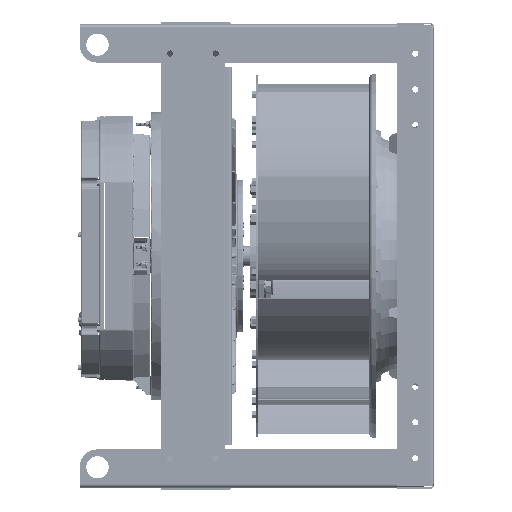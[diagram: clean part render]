
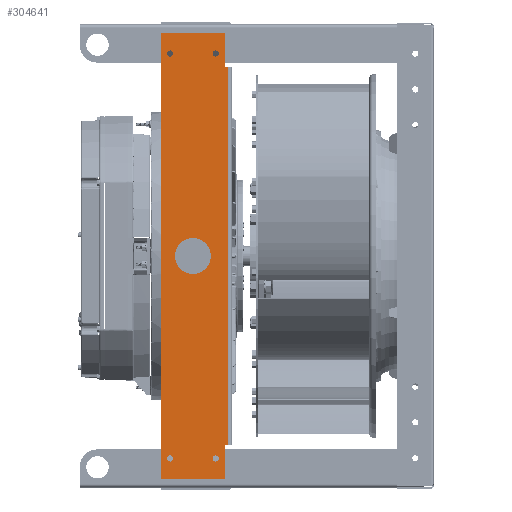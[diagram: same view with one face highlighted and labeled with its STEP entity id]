
A CAD part, front view. The second image highlights one B-rep face of the part: STEP entity #304641.
In plain terms, the highlighted planar face has unit normal (0, -1, 0) as drawn and (0, 0, 1) by its records, which use the part's own axes.
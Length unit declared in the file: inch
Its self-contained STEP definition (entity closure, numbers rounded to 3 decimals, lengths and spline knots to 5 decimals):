
#167 = CIRCLE ( 'NONE', #56768, 1. ) ;
#3002 = DIRECTION ( 'NONE',  ( 1., 0., 0. ) ) ;
#3471 = CARTESIAN_POINT ( 'NONE',  ( -11.305, 1.27, 0.135 ) ) ;
#8842 = VERTEX_POINT ( 'NONE', #313067 ) ;
#12262 = DIRECTION ( 'NONE',  ( -1., 0., 0. ) ) ;
#12968 = EDGE_LOOP ( 'NONE', ( #268033 ) ) ;
#13872 = EDGE_CURVE ( 'NONE', #38514, #38514, #216441, .T. ) ;
#19350 = DIRECTION ( 'NONE',  ( -1., 0., 0. ) ) ;
#20296 = CARTESIAN_POINT ( 'NONE',  ( -12.465, -1.77, 0.135 ) ) ;
#21132 = EDGE_CURVE ( 'NONE', #98328, #8842, #247827, .T. ) ;
#24757 = LINE ( 'NONE', #221554, #207800 ) ;
#27243 = VERTEX_POINT ( 'NONE', #282128 ) ;
#30086 = CARTESIAN_POINT ( 'NONE',  ( -11.305, -1.27, 0.135 ) ) ;
#33373 = FACE_BOUND ( 'NONE', #302127, .T. ) ;
#38514 = VERTEX_POINT ( 'NONE', #280532 ) ;
#39239 = EDGE_CURVE ( 'NONE', #27243, #98328, #154314, .T. ) ;
#46737 = CARTESIAN_POINT ( 'NONE',  ( -12.465, 1.77, 0.135 ) ) ;
#56768 = AXIS2_PLACEMENT_3D ( 'NONE', #149804, #106127, #3002 ) ;
#59159 = FACE_OUTER_BOUND ( 'NONE', #267252, .T. ) ;
#64891 = EDGE_CURVE ( 'NONE', #104110, #27243, #315488, .T. ) ;
#68324 = CARTESIAN_POINT ( 'NONE',  ( 11.305, 1.27, 0.135 ) ) ;
#75106 = CARTESIAN_POINT ( 'NONE',  ( 11.133, 1.27, 0.135 ) ) ;
#76072 = DIRECTION ( 'NONE',  ( 1., 0., 0. ) ) ;
#79249 = DIRECTION ( 'NONE',  ( 0., 0., 1. ) ) ;
#79831 = VERTEX_POINT ( 'NONE', #75106 ) ;
#79865 = ORIENTED_EDGE ( 'NONE', *, *, #177143, .F. ) ;
#81525 = ORIENTED_EDGE ( 'NONE', *, *, #187393, .T. ) ;
#81743 = FACE_BOUND ( 'NONE', #12968, .T. ) ;
#82169 = LINE ( 'NONE', #180607, #277283 ) ;
#85366 = DIRECTION ( 'NONE',  ( 0., -1., 0. ) ) ;
#85444 = CARTESIAN_POINT ( 'NONE',  ( -10.555, 1.9775, 0.135 ) ) ;
#89192 = EDGE_CURVE ( 'NONE', #132917, #132917, #167, .T. ) ;
#89737 = DIRECTION ( 'NONE',  ( -1., 0., 0. ) ) ;
#94010 = ORIENTED_EDGE ( 'NONE', *, *, #39239, .T. ) ;
#96217 = ORIENTED_EDGE ( 'NONE', *, *, #140553, .T. ) ;
#96525 = VECTOR ( 'NONE', #152861, 39.37008 ) ;
#98030 = ORIENTED_EDGE ( 'NONE', *, *, #64891, .T. ) ;
#98328 = VERTEX_POINT ( 'NONE', #141524 ) ;
#98891 = DIRECTION ( 'NONE',  ( 0., 0., 1. ) ) ;
#99897 = EDGE_CURVE ( 'NONE', #229732, #229732, #124078, .T. ) ;
#101294 = CARTESIAN_POINT ( 'NONE',  ( 10.555, 1.9775, 0.135 ) ) ;
#104110 = VERTEX_POINT ( 'NONE', #161150 ) ;
#104998 = VECTOR ( 'NONE', #239690, 39.37008 ) ;
#106127 = DIRECTION ( 'NONE',  ( 0., 0., 1. ) ) ;
#106227 = ORIENTED_EDGE ( 'NONE', *, *, #252777, .T. ) ;
#108049 = LINE ( 'NONE', #85444, #226722 ) ;
#119893 = DIRECTION ( 'NONE',  ( -1., 0., 0. ) ) ;
#121497 = DIRECTION ( 'NONE',  ( -1., 0., 0. ) ) ;
#123802 = VERTEX_POINT ( 'NONE', #145999 ) ;
#124078 = CIRCLE ( 'NONE', #304353, 0.172 ) ;
#128572 = CARTESIAN_POINT ( 'NONE',  ( -11.133, 1.27, 0.135 ) ) ;
#129872 = EDGE_LOOP ( 'NONE', ( #141221 ) ) ;
#132917 = VERTEX_POINT ( 'NONE', #252363 ) ;
#134760 = VERTEX_POINT ( 'NONE', #183597 ) ;
#139044 = AXIS2_PLACEMENT_3D ( 'NONE', #169750, #197111, #76072 ) ;
#140553 = EDGE_CURVE ( 'NONE', #134760, #263165, #219164, .T. ) ;
#141221 = ORIENTED_EDGE ( 'NONE', *, *, #13872, .F. ) ;
#141293 = CARTESIAN_POINT ( 'NONE',  ( 0., 0., 0.135 ) ) ;
#141524 = CARTESIAN_POINT ( 'NONE',  ( 12.465, 1.77, 0.135 ) ) ;
#144550 = VECTOR ( 'NONE', #119893, 39.37008 ) ;
#145999 = CARTESIAN_POINT ( 'NONE',  ( -12.465, 1.77, 0.135 ) ) ;
#149804 = CARTESIAN_POINT ( 'NONE',  ( 0., 0., 0.135 ) ) ;
#152861 = DIRECTION ( 'NONE',  ( -1., 0., 0. ) ) ;
#154314 = LINE ( 'NONE', #205879, #247579 ) ;
#157824 = CIRCLE ( 'NONE', #204066, 0.172 ) ;
#158155 = ORIENTED_EDGE ( 'NONE', *, *, #21132, .T. ) ;
#161150 = CARTESIAN_POINT ( 'NONE',  ( -12.465, -1.77, 0.135 ) ) ;
#168134 = EDGE_CURVE ( 'NONE', #246476, #246476, #157824, .T. ) ;
#168196 = VECTOR ( 'NONE', #19350, 39.37008 ) ;
#168391 = DIRECTION ( 'NONE',  ( 0., -1., 0. ) ) ;
#169750 = CARTESIAN_POINT ( 'NONE',  ( 11.305, -1.27, 0.135 ) ) ;
#176105 = ORIENTED_EDGE ( 'NONE', *, *, #198495, .T. ) ;
#177143 = EDGE_CURVE ( 'NONE', #134760, #8842, #82169, .T. ) ;
#180607 = CARTESIAN_POINT ( 'NONE',  ( 10.555, 1.9775, 0.135 ) ) ;
#183597 = CARTESIAN_POINT ( 'NONE',  ( 10.555, 1.9775, 0.135 ) ) ;
#186524 = ORIENTED_EDGE ( 'NONE', *, *, #207926, .F. ) ;
#187393 = EDGE_CURVE ( 'NONE', #123802, #104110, #24757, .T. ) ;
#197111 = DIRECTION ( 'NONE',  ( 0., 0., 1. ) ) ;
#198495 = EDGE_CURVE ( 'NONE', #221073, #123802, #226819, .T. ) ;
#204066 = AXIS2_PLACEMENT_3D ( 'NONE', #3471, #79249, #301807 ) ;
#205830 = CARTESIAN_POINT ( 'NONE',  ( -10.555, 1.9775, 0.135 ) ) ;
#205879 = CARTESIAN_POINT ( 'NONE',  ( 12.465, -1.77, 0.135 ) ) ;
#205911 = FACE_BOUND ( 'NONE', #129872, .T. ) ;
#207800 = VECTOR ( 'NONE', #168391, 39.37008 ) ;
#207926 = EDGE_CURVE ( 'NONE', #79831, #79831, #257485, .T. ) ;
#209094 = DIRECTION ( 'NONE',  ( 0., 1., 0. ) ) ;
#216441 = CIRCLE ( 'NONE', #139044, 0.172 ) ;
#219164 = LINE ( 'NONE', #101294, #96525 ) ;
#221073 = VERTEX_POINT ( 'NONE', #237043 ) ;
#221554 = CARTESIAN_POINT ( 'NONE',  ( -12.465, -1.77, 0.135 ) ) ;
#223605 = CARTESIAN_POINT ( 'NONE',  ( -12.465, 1.77, 0.135 ) ) ;
#226429 = ORIENTED_EDGE ( 'NONE', *, *, #168134, .F. ) ;
#226722 = VECTOR ( 'NONE', #256457, 39.37008 ) ;
#226819 = LINE ( 'NONE', #46737, #168196 ) ;
#228135 = CARTESIAN_POINT ( 'NONE',  ( -11.477, -1.27, 0.135 ) ) ;
#228844 = AXIS2_PLACEMENT_3D ( 'NONE', #141293, #259139, #89737 ) ;
#229732 = VERTEX_POINT ( 'NONE', #228135 ) ;
#237043 = CARTESIAN_POINT ( 'NONE',  ( -10.555, 1.77, 0.135 ) ) ;
#239690 = DIRECTION ( 'NONE',  ( 1., 0., 0. ) ) ;
#239694 = PLANE ( 'NONE',  #228844 ) ;
#246476 = VERTEX_POINT ( 'NONE', #128572 ) ;
#247579 = VECTOR ( 'NONE', #209094, 39.37008 ) ;
#247827 = LINE ( 'NONE', #223605, #144550 ) ;
#252363 = CARTESIAN_POINT ( 'NONE',  ( 1., 0., 0.135 ) ) ;
#252777 = EDGE_CURVE ( 'NONE', #263165, #221073, #108049, .T. ) ;
#254372 = FACE_BOUND ( 'NONE', #261575, .T. ) ;
#256457 = DIRECTION ( 'NONE',  ( 0., -1., 0. ) ) ;
#257485 = CIRCLE ( 'NONE', #288567, 0.172 ) ;
#259139 = DIRECTION ( 'NONE',  ( 0., 0., -1. ) ) ;
#261575 = EDGE_LOOP ( 'NONE', ( #294935 ) ) ;
#263165 = VERTEX_POINT ( 'NONE', #205830 ) ;
#267252 = EDGE_LOOP ( 'NONE', ( #81525, #98030, #94010, #158155, #79865, #96217, #106227, #176105 ) ) ;
#268033 = ORIENTED_EDGE ( 'NONE', *, *, #89192, .F. ) ;
#277283 = VECTOR ( 'NONE', #85366, 39.37008 ) ;
#280532 = CARTESIAN_POINT ( 'NONE',  ( 11.477, -1.27, 0.135 ) ) ;
#282128 = CARTESIAN_POINT ( 'NONE',  ( 12.465, -1.77, 0.135 ) ) ;
#288567 = AXIS2_PLACEMENT_3D ( 'NONE', #68324, #98891, #121497 ) ;
#294935 = ORIENTED_EDGE ( 'NONE', *, *, #99897, .F. ) ;
#301050 = DIRECTION ( 'NONE',  ( 0., 0., 1. ) ) ;
#301807 = DIRECTION ( 'NONE',  ( 1., 0., 0. ) ) ;
#302127 = EDGE_LOOP ( 'NONE', ( #226429 ) ) ;
#304326 = FACE_BOUND ( 'NONE', #316487, .T. ) ;
#304353 = AXIS2_PLACEMENT_3D ( 'NONE', #30086, #301050, #12262 ) ;
#304641 = ADVANCED_FACE ( 'NONE', ( #81743, #59159, #254372, #33373, #205911, #304326 ), #239694, .F. ) ;
#313067 = CARTESIAN_POINT ( 'NONE',  ( 10.555, 1.77, 0.135 ) ) ;
#315488 = LINE ( 'NONE', #20296, #104998 ) ;
#316487 = EDGE_LOOP ( 'NONE', ( #186524 ) ) ;
